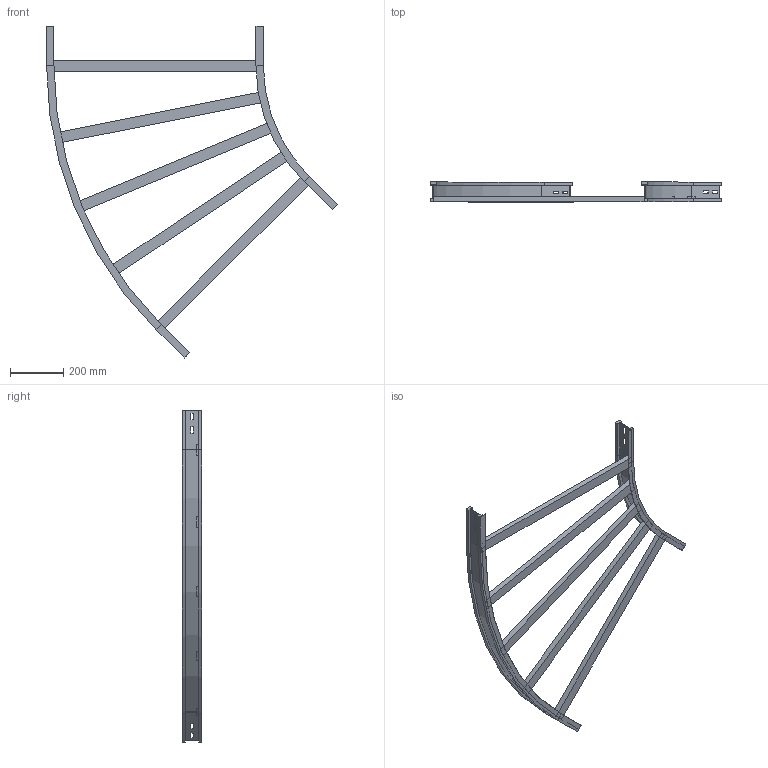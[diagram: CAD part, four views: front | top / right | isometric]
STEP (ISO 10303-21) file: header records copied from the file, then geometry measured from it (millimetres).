
FILE_DESCRIPTION (( 'STEP AP214' ), '1' );
FILE_NAME ('11S6C800.step', '2025-02-21T16:06:32', ( '' ), ( '' ), 'SwSTEP 2.0', 'SolidWorks 2023', '' );
FILE_SCHEMA (( 'AUTOMOTIVE_DESIGN' ));
Length unit declared in the file: millimetre
Products named in the file (4): LONGH.ESTERNO 45°_H75_R600+800; LONGH.INTERNO 45°_H75_R600; TRAVERSINO_800; 11S6C800
Assembly tree (7 placements, depth 2):
  11S6C800
    LONGH.INTERNO 45°_H75_R600
    LONGH.ESTERNO 45°_H75_R600+800
    TRAVERSINO_800  x5
Bounding box: 1097.17 x 75 x 1252.38 mm (x, y, z)
Volume: 4294809.9 mm3; surface area: 1025658.7 mm2
Topology: 7 solids, 7 shells, 138 faces, 324 edges, 200 vertices
Faces by surface type: plane 126, cylinder 12
Entity records: 3405 total; most frequent: CARTESIAN_POINT 568, ORIENTED_EDGE 552, DIRECTION 548, EDGE_CURVE 276, LINE 252, VECTOR 252, VERTEX_POINT 168, AXIS2_PLACEMENT_3D 148
